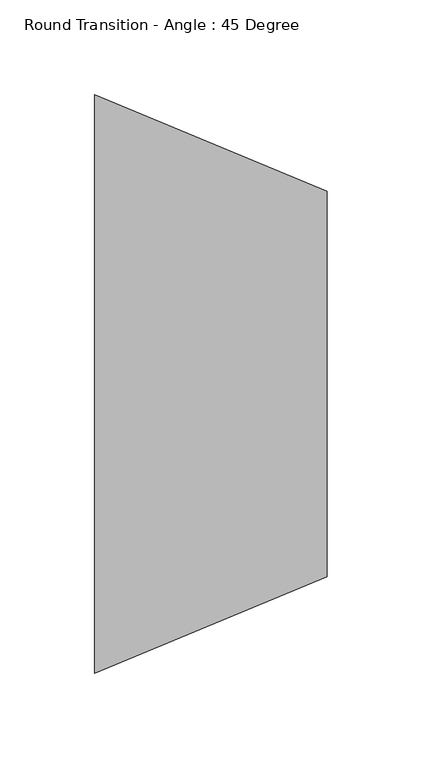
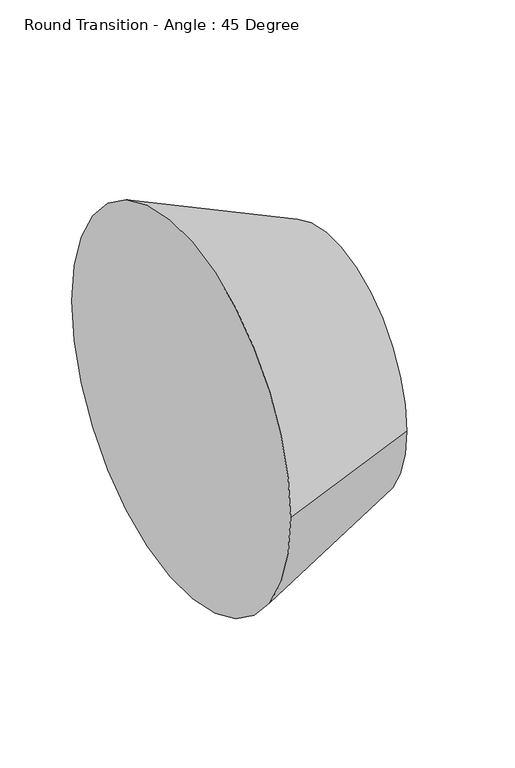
"""IFC4 building model written with IfcOpenShell, lengths in millimetres: duct fitting geometry, Round Transition - Angle : 45 Degree."""

from ifc_helpers import new_model, si_unit, frame, origin, place, context, project, spatial, polyline, circle_curve, source, transform, mapped, element, save
from ifc_brep_helpers import plane_surface, revolved_surface, advanced_brep


def round_transition_angle_45_degree_1597dbae(model_context):
    return source(origin(), model_context, "Body", "AdvancedBrep", [
        advanced_brep(
        [(122.642049, -101.6, 0.0), (122.642049, 101.6, 0.0), (0.0, -152.4, 0.0), (0.0, 152.4, 0.0)],
        [
            (0, 1, circle_curve(frame((122.642049, 0.0, 0.0), z_axis=(1.0, 0.0, 0.0), x_axis=(0.0, -1.0, 0.0)), 101.6)),
            (1, 0, circle_curve(frame((122.642049, 0.0, 0.0), z_axis=(1.0, 0.0, 0.0), x_axis=(0.0, 1.0, 0.0)), 101.6)),
            (2, 3, circle_curve(frame((0.0, 0.0, 0.0), z_axis=(-1.0, 0.0, 0.0), x_axis=(0.0, 1.0, 0.0)), 152.4)),
            (3, 2, circle_curve(frame((0.0, 0.0, 0.0), z_axis=(-1.0, 0.0, 0.0), x_axis=(0.0, -1.0, 0.0)), 152.4)),
            (3, 1),
            (0, 2),
        ],
        [
            plane_surface(frame((122.642049, 0.0, 0.0), z_axis=(1.0, 0.0, 0.0), x_axis=(0.0, 0.0, -1.0))),
            plane_surface(frame((0.0, 0.0, 0.0), z_axis=(-1.0, 0.0, 0.0), x_axis=(0.0, 0.0, -1.0))),
            revolved_surface(polyline([(122.64204900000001, -101.59999998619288, 0.0), (0.0, -152.4, 0.0)]), (367.9261469, 0.0, 0.0), (-1.0, 0.0, 0.0)),
            revolved_surface(polyline([(122.64204900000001, 101.59999998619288, 0.0), (0.0, 152.4, 0.0)]), (367.9261469, 0.0, 0.0), (-1.0, 0.0, 0.0)),
        ],
        [
            (0, [[1, 2]]),
            (1, [[3, 4]]),
            (2, [[-4, 5, -1, 6]]),
            (3, [[-3, -6, -2, -5]]),
        ],
    ),
    ])


if __name__ == "__main__":
    model = new_model("IFC4")
    model_context = context("Model", 3, world=origin())
    ifc_project = project(units=[si_unit("LENGTHUNIT", "METRE", prefix="MILLI")], contexts=[model_context])
    site = spatial("IfcSite", under=ifc_project)
    building = spatial("IfcBuilding", under=site)
    placement = place(None, origin())
    round_transition_angle_45_degree_shape = round_transition_angle_45_degree_1597dbae(model_context)
    element("IfcDuctFitting", 1, ObjectType="Round Transition - Angle : 45 Degree", at=placement, inside=building, context=model_context, shape_type="MappedRepresentation", body=[
        mapped(round_transition_angle_45_degree_shape, transform((0.0, 0.0, 0.0), x_axis=(1.0, 0.0, 0.0), y_axis=(0.0, 1.0, 0.0), z_axis=(0.0, 0.0, 1.0))),
    ])
    save(model, "model.ifc")
